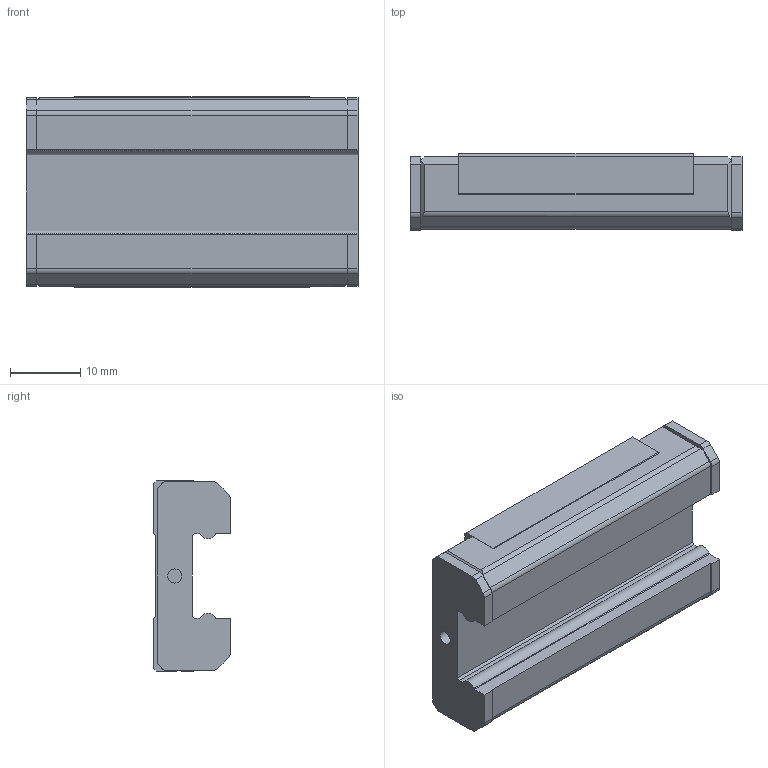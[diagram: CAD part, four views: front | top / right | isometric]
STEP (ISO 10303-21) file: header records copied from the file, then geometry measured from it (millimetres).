
FILE_DESCRIPTION(/* description */ ('STEP AP214'),/* implementation_level */ '2;1');
FILE_NAME(/* name */ 'SRS12NUU(GK) BLOCK(1)',/* time_stamp */ '2023-06-01T09:51:49+02:00',/* author */ ('License CC BY-ND 4.0'),/* organization */ ('CADENAS'),/* preprocessor_version */ 'ST-DEVELOPER v19.3',/* originating_system */ 'PARTsolutions',/* authorisation */ ' ');
FILE_SCHEMA (('AUTOMOTIVE_DESIGN {1 0 10303 214 3 1 1}'));
Length unit declared in the file: millimetre
Products named in the file (2): SRS12NUU(GK) BLOCK(1); SRS12NUU1S
Assembly tree (1 placements, depth 2):
  SRS12NUU(GK) BLOCK(1)
    SRS12NUU1S
Bounding box: 47.1 x 10.9 x 27 mm (x, y, z)
Volume: 10076.3 mm3; surface area: 4581.5 mm2
Topology: 1 solids, 1 shells, 106 faces, 286 edges, 184 vertices
Faces by surface type: plane 71, cylinder 27, cone 8
Full cylindrical faces by diameter (mm): 2 x2, 2.459 x4
Entity records: 3215 total; most frequent: CARTESIAN_POINT 552, DIRECTION 542, ORIENTED_EDGE 528, EDGE_CURVE 264, LINE 202, VECTOR 202, VERTEX_POINT 180, AXIS2_PLACEMENT_3D 170
